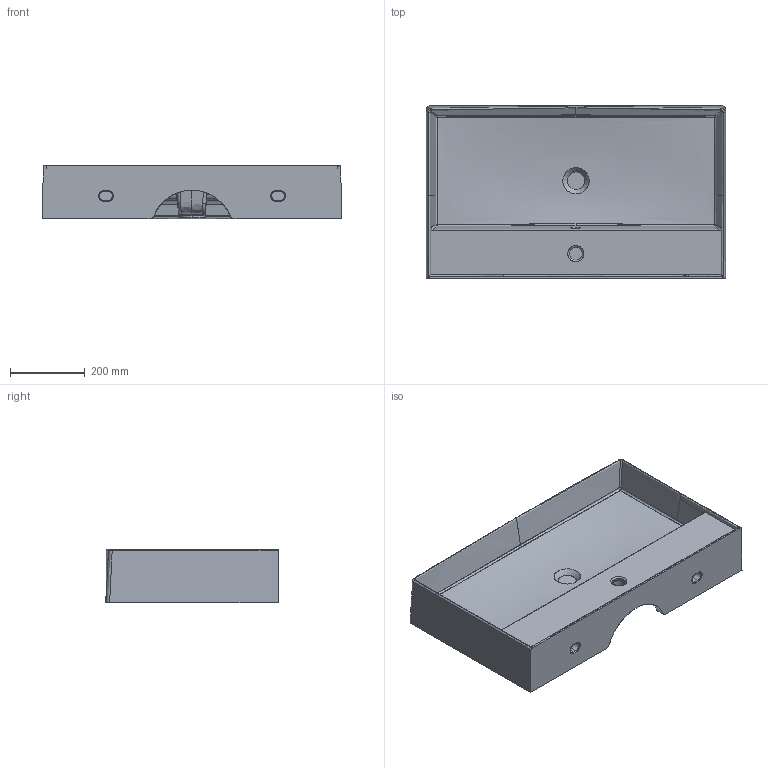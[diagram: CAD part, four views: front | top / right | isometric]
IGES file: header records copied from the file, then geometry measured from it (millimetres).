
Global section: file name: C:\Users\Massimiliano\Desktop\TEOREMA 2.0 lavabo 80x46 art.5110\TEOREMA 2.0 R lavabo 80x46 art.5110.igs; native system: Rhinoceros ( Mar 28 2013 ); preprocessor: Trout Lake IGES 012 Mar 28 2013; date: 171204.101115; units: millimetre
Bounding box: 800 x 460 x 142.66 mm (x, y, z)
Surface area: 1409195.5 mm2 (no closed solid volume)
Topology: 0 solids, 0 shells, 196 faces, 2774 edges, 2756 vertices
Faces by surface type: bspline 196
